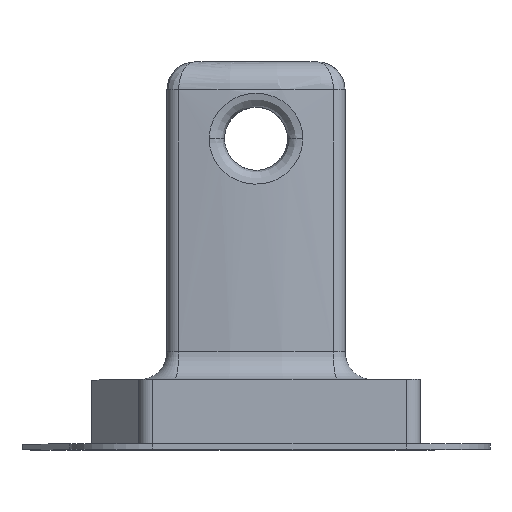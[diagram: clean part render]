
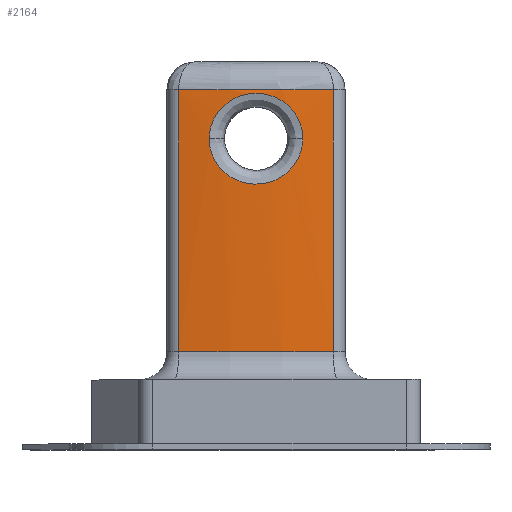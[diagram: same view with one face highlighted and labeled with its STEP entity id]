
A CAD part, top view. The second image highlights one B-rep face of the part: STEP entity #2164.
In plain terms, the highlighted cylindrical face has radius 34.167 mm (diameter 68.334 mm), a partial arc.
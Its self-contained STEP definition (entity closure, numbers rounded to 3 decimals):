
#78=DIRECTION('',(0.,-1.,0.));
#79=VECTOR('',#78,18.75);
#80=CARTESIAN_POINT('',(-5.537,3.5,3.048));
#81=LINE('',#80,#79);
#82=CARTESIAN_POINT('',(0.,3.5,-30.667));
#83=DIRECTION('',(0.,1.,0.));
#84=DIRECTION('',(-0.162,0.,0.987));
#85=AXIS2_PLACEMENT_3D('',#82,#83,#84);
#87=DIRECTION('',(0.,-1.,0.));
#88=VECTOR('',#87,18.75);
#89=CARTESIAN_POINT('',(5.537,3.5,3.048));
#90=LINE('',#89,#88);
#91=CARTESIAN_POINT('',(0.,-15.25,-30.667));
#92=DIRECTION('',(0.,-1.,0.));
#93=DIRECTION('',(0.162,0.,0.987));
#94=AXIS2_PLACEMENT_3D('',#91,#92,#93);
#96=CARTESIAN_POINT('',(-3.348,0.,
3.336));
#97=CARTESIAN_POINT('',(-3.348,0.128,3.336));
#98=CARTESIAN_POINT('',(-3.333,0.383,3.337));
#99=CARTESIAN_POINT('',(-3.262,0.764,3.344));
#100=CARTESIAN_POINT('',(-3.145,1.137,3.355));
#101=CARTESIAN_POINT('',(-2.983,1.493,3.37));
#102=CARTESIAN_POINT('',(-2.777,1.829,3.387));
#103=CARTESIAN_POINT('',(-2.531,2.14,3.407));
#104=CARTESIAN_POINT('',(-2.245,2.422,3.427));
#105=CARTESIAN_POINT('',(-1.925,2.669,3.446));
#106=CARTESIAN_POINT('',(-1.577,2.876,3.464));
#107=CARTESIAN_POINT('',(-1.204,3.041,3.48));
#108=CARTESIAN_POINT('',(-0.812,3.161,3.491));
#109=CARTESIAN_POINT('',(-0.408,3.234,3.498));
#110=CARTESIAN_POINT('',(0.003,3.258,3.501));
#111=CARTESIAN_POINT('',(0.413,3.233,3.498));
#112=CARTESIAN_POINT('',(0.817,3.16,3.491));
#113=CARTESIAN_POINT('',(1.207,3.04,3.479));
#114=CARTESIAN_POINT('',(1.579,2.875,3.464));
#115=CARTESIAN_POINT('',(1.927,2.667,3.446));
#116=CARTESIAN_POINT('',(2.246,2.421,3.427));
#117=CARTESIAN_POINT('',(2.529,2.141,3.407));
#118=CARTESIAN_POINT('',(2.774,1.833,3.387));
#119=CARTESIAN_POINT('',(2.98,1.498,3.37));
#120=CARTESIAN_POINT('',(3.142,1.143,3.355));
#121=CARTESIAN_POINT('',(3.26,0.773,3.344));
#122=CARTESIAN_POINT('',(3.332,0.388,3.337));
#123=CARTESIAN_POINT('',(3.348,0.13,3.336));
#124=CARTESIAN_POINT('',(3.348,0.,3.336));
#126=CARTESIAN_POINT('',(3.348,0.,3.336));
#127=CARTESIAN_POINT('',(3.348,-0.128,3.336));
#128=CARTESIAN_POINT('',(3.333,-0.383,3.337));
#129=CARTESIAN_POINT('',(3.262,-0.764,3.344));
#130=CARTESIAN_POINT('',(3.145,-1.137,3.355));
#131=CARTESIAN_POINT('',(2.983,-1.493,3.37));
#132=CARTESIAN_POINT('',(2.777,-1.829,3.387));
#133=CARTESIAN_POINT('',(2.531,-2.14,3.407));
#134=CARTESIAN_POINT('',(2.245,-2.422,3.427));
#135=CARTESIAN_POINT('',(1.925,-2.669,3.446));
#136=CARTESIAN_POINT('',(1.577,-2.876,3.464));
#137=CARTESIAN_POINT('',(1.204,-3.041,3.48));
#138=CARTESIAN_POINT('',(0.812,-3.161,3.491));
#139=CARTESIAN_POINT('',(0.408,-3.234,3.498));
#140=CARTESIAN_POINT('',(-0.003,-3.258,
3.501));
#141=CARTESIAN_POINT('',(-0.413,-3.233,
3.498));
#142=CARTESIAN_POINT('',(-0.817,-3.16,
3.491));
#143=CARTESIAN_POINT('',(-1.207,-3.04,3.479));
#144=CARTESIAN_POINT('',(-1.579,-2.875,3.464));
#145=CARTESIAN_POINT('',(-1.927,-2.667,3.446));
#146=CARTESIAN_POINT('',(-2.246,-2.421,3.427));
#147=CARTESIAN_POINT('',(-2.529,-2.141,3.407));
#148=CARTESIAN_POINT('',(-2.774,-1.833,3.387));
#149=CARTESIAN_POINT('',(-2.98,-1.498,3.37));
#150=CARTESIAN_POINT('',(-3.142,-1.143,3.355));
#151=CARTESIAN_POINT('',(-3.26,-0.773,
3.344));
#152=CARTESIAN_POINT('',(-3.332,-0.388,
3.337));
#153=CARTESIAN_POINT('',(-3.348,-0.13,
3.336));
#154=CARTESIAN_POINT('',(-3.348,0.,
3.336));
#1646=CARTESIAN_POINT('',(-5.537,3.5,3.048));
#1647=CARTESIAN_POINT('',(5.537,3.5,3.048));
#1648=VERTEX_POINT('',#1646);
#1649=VERTEX_POINT('',#1647);
#1652=CARTESIAN_POINT('',(-5.537,-15.25,3.048));
#1653=VERTEX_POINT('',#1652);
#1654=CARTESIAN_POINT('',(5.537,-15.25,3.048));
#1655=VERTEX_POINT('',#1654);
#1710=VERTEX_POINT('',#96);
#1711=VERTEX_POINT('',#124);
#2145=CARTESIAN_POINT('',(0.,-22.25,-30.667));
#2146=DIRECTION('',(0.,1.,0.));
#2147=DIRECTION('',(0.,0.,-1.));
#2148=AXIS2_PLACEMENT_3D('',#2145,#2146,#2147);
#2149=CYLINDRICAL_SURFACE('',#2148,34.167);
#2150=ORIENTED_EDGE('',*,*,#2052,.F.);
#2151=ORIENTED_EDGE('',*,*,#2136,.T.);
#2153=ORIENTED_EDGE('',*,*,#2152,.T.);
#2155=ORIENTED_EDGE('',*,*,#2154,.T.);
#2156=EDGE_LOOP('',(#2150,#2151,#2153,#2155));
#2157=FACE_OUTER_BOUND('',#2156,.F.);
#2159=ORIENTED_EDGE('',*,*,#2158,.F.);
#2161=ORIENTED_EDGE('',*,*,#2160,.F.);
#2162=EDGE_LOOP('',(#2159,#2161));
#2163=FACE_BOUND('',#2162,.F.);
#2164=ADVANCED_FACE('',(#2157,#2163),#2149,.T.);
#86=CIRCLE('',#85,34.167);
#95=CIRCLE('',#94,34.167);
#125=B_SPLINE_CURVE_WITH_KNOTS('',3,(#96,#97,#98,#99,#100,#101,#102,#103,#104,
#105,#106,#107,#108,#109,#110,#111,#112,#113,#114,#115,#116,#117,#118,#119,#120,
#121,#122,#123,#124),.UNSPECIFIED.,.F.,.F.,(4,1,1,1,1,1,1,1,1,1,1,1,1,1,1,1,1,1,
1,1,1,1,1,1,1,1,4),(0.,0.038,0.077,0.115,
0.154,0.192,0.231,0.269,
0.308,0.346,0.385,0.423,
0.462,0.5,0.538,0.577,0.615,
0.654,0.692,0.731,0.769,
0.808,0.846,0.885,0.923,
0.962,1.),.UNSPECIFIED.);
#155=B_SPLINE_CURVE_WITH_KNOTS('',3,(#126,#127,#128,#129,#130,#131,#132,#133,
#134,#135,#136,#137,#138,#139,#140,#141,#142,#143,#144,#145,#146,#147,#148,#149,
#150,#151,#152,#153,#154),.UNSPECIFIED.,.F.,.F.,(4,1,1,1,1,1,1,1,1,1,1,1,1,1,1,
1,1,1,1,1,1,1,1,1,1,1,4),(0.,0.038,0.077,
0.115,0.154,0.192,0.231,
0.269,0.308,0.346,0.385,
0.423,0.462,0.5,0.538,0.577,
0.615,0.654,0.692,0.731,
0.769,0.808,0.846,0.885,
0.923,0.962,1.),.UNSPECIFIED.);
#2052=EDGE_CURVE('',#1648,#1653,#81,.T.);
#2136=EDGE_CURVE('',#1648,#1649,#86,.T.);
#2152=EDGE_CURVE('',#1649,#1655,#90,.T.);
#2154=EDGE_CURVE('',#1655,#1653,#95,.T.);
#2158=EDGE_CURVE('',#1710,#1711,#125,.T.);
#2160=EDGE_CURVE('',#1711,#1710,#155,.T.);
